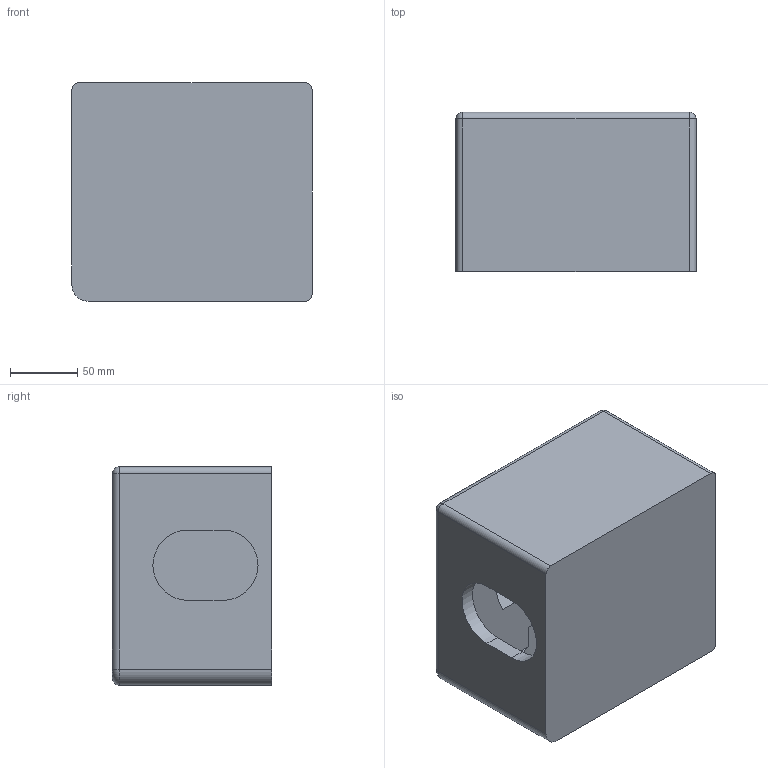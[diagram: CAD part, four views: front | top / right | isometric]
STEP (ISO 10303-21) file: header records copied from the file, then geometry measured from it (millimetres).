
FILE_DESCRIPTION((''),'2;1');
FILE_NAME('C:\Users\Hardie\Documents\Hoardings\Drawings\Corner Casting\CH2-L.stp','2013-03-19T14:56:52',('Hardie'),(''),'Autodesk Inventor 2013','Autodesk Inventor 2013','');
FILE_SCHEMA(('AUTOMOTIVE_DESIGN { 1 0 10303 214 1 1 1 1 }'));
Length unit declared in the file: millimetre
Products named in the file (1): CH2-L
Bounding box: 178 x 118 x 162 mm (x, y, z)
Volume: 1303945.9 mm3; surface area: 210394.4 mm2
Topology: 1 solids, 1 shells, 46 faces, 118 edges, 73 vertices
Faces by surface type: plane 22, cylinder 18, sphere 3, cone 2, torus 1
Entity records: 1439 total; most frequent: CARTESIAN_POINT 263, DIRECTION 251, ORIENTED_EDGE 236, EDGE_CURVE 118, AXIS2_PLACEMENT_3D 91, VERTEX_POINT 73, VECTOR 69, LINE 69
